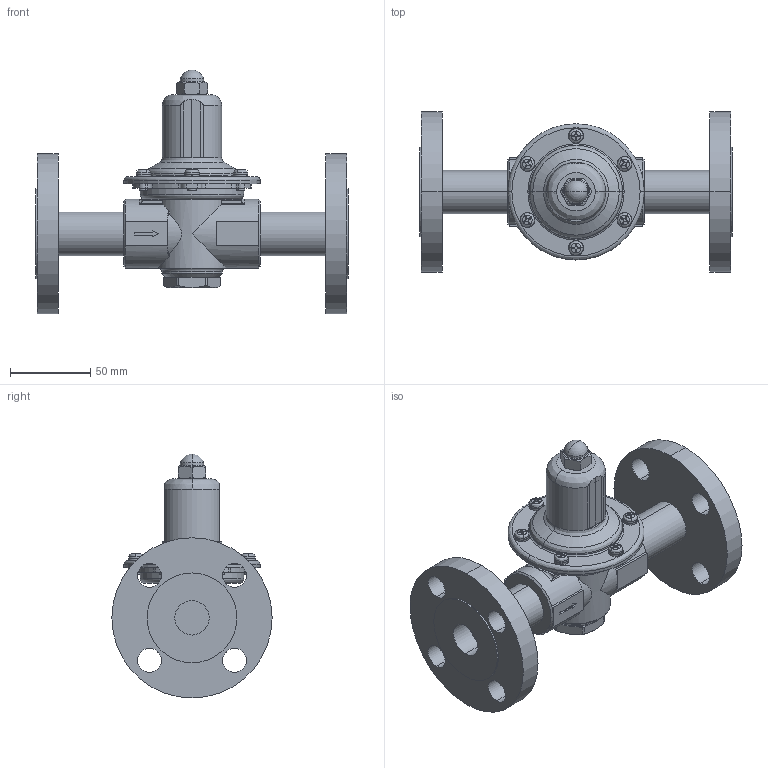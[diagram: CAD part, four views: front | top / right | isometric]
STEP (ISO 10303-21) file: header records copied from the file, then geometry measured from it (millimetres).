
FILE_DESCRIPTION( (''), '2;1');
FILE_NAME ('PC1276.4780.GD-43-10 (20A RF)_30023.stp','2026-01-15T14:28:14',(''),(''),'spGate 20.6.3 (****-****-****-****)','','');
FILE_SCHEMA (('AUTOMOTIVE_DESIGN'));
Length unit declared in the file: millimetre
Products named in the file (8): Assembly; ばねかばー; 袋ナット; 下部キャップ; なべこねじ(Ｍ5-10); スプリング座金; ダイヤフラム; GD-41 20A
Assembly tree (17 placements, depth 2):
  Assembly
    ばねかばー
    袋ナット
    下部キャップ
    なべこねじ(Ｍ5-10)  x6
    スプリング座金  x6
    ダイヤフラム
    GD-41 20A
Bounding box: 195 x 100 x 152.25 mm (x, y, z)
Volume: 425619.6 mm3; surface area: 118356.5 mm2
Topology: 17 solids, 17 shells, 637 faces, 1606 edges, 1025 vertices
Faces by surface type: plane 261, cylinder 240, bspline 120, sphere 16
Entity records: 26307 total; most frequent: CARTESIAN_POINT 5626, ORIENTED_EDGE 2404, DIRECTION 2208, COLOUR_RGB 1681, PRESENTATION_STYLE_ASSIGNMENT 1681, STYLED_ITEM 1681, EDGE_CURVE 1202, DRAUGHTING_PRE_DEFINED_CURVE_FONT 1202
